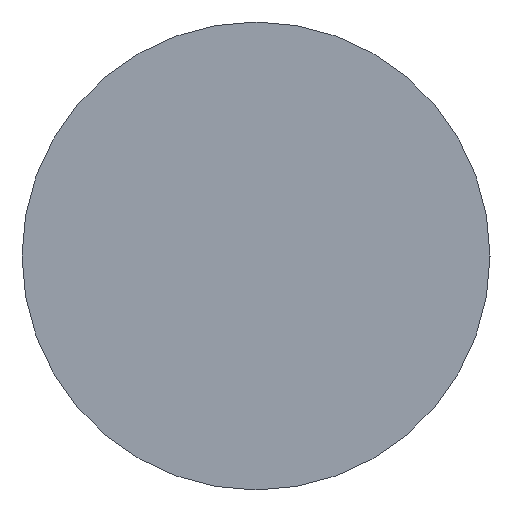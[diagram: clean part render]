
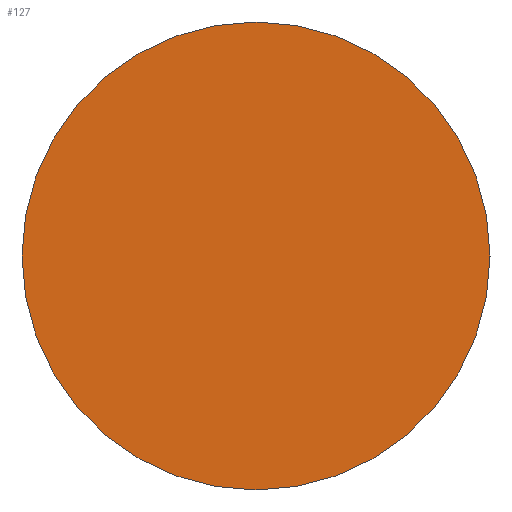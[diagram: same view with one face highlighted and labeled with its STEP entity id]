
A CAD part, left-side view. The second image highlights one B-rep face of the part: STEP entity #127.
In plain terms, the highlighted planar face has unit normal (-1, 0, 0).
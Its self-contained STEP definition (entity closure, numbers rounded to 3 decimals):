
#49 = CYLINDRICAL_SURFACE('',#50,9.3);
#50 = AXIS2_PLACEMENT_3D('',#51,#52,#53);
#51 = CARTESIAN_POINT('',(-32.6,21.,17.));
#52 = DIRECTION('',(1.,0.,0.));
#53 = DIRECTION('',(-0.,0.,1.));
#74 = VERTEX_POINT('',#75);
#75 = CARTESIAN_POINT('',(-32.6,21.,26.3));
#96 = EDGE_CURVE('',#74,#74,#97,.T.);
#97 = SURFACE_CURVE('',#98,(#103,#110),.PCURVE_S1.);
#98 = CIRCLE('',#99,9.3);
#99 = AXIS2_PLACEMENT_3D('',#100,#101,#102);
#100 = CARTESIAN_POINT('',(-32.6,21.,17.));
#101 = DIRECTION('',(1.,0.,0.));
#102 = DIRECTION('',(-0.,0.,1.));
#103 = PCURVE('',#49,#104);
#104 = DEFINITIONAL_REPRESENTATION('',(#105),#109);
#105 = LINE('',#106,#107);
#106 = CARTESIAN_POINT('',(0.,0.));
#107 = VECTOR('',#108,1.);
#108 = DIRECTION('',(1.,0.));
#109 = ( GEOMETRIC_REPRESENTATION_CONTEXT(2) 
PARAMETRIC_REPRESENTATION_CONTEXT() REPRESENTATION_CONTEXT('2D SPACE',''
  ) );
#110 = PCURVE('',#111,#116);
#111 = PLANE('',#112);
#112 = AXIS2_PLACEMENT_3D('',#113,#114,#115);
#113 = CARTESIAN_POINT('',(-32.6,21.,17.));
#114 = DIRECTION('',(1.,0.,0.));
#115 = DIRECTION('',(-0.,0.,1.));
#116 = DEFINITIONAL_REPRESENTATION('',(#117),#121);
#117 = CIRCLE('',#118,9.3);
#118 = AXIS2_PLACEMENT_2D('',#119,#120);
#119 = CARTESIAN_POINT('',(0.,0.));
#120 = DIRECTION('',(1.,0.));
#121 = ( GEOMETRIC_REPRESENTATION_CONTEXT(2) 
PARAMETRIC_REPRESENTATION_CONTEXT() REPRESENTATION_CONTEXT('2D SPACE',''
  ) );
#127 = ADVANCED_FACE('',(#128),#111,.F.);
#128 = FACE_BOUND('',#129,.T.);
#129 = EDGE_LOOP('',(#130));
#130 = ORIENTED_EDGE('',*,*,#96,.F.);
